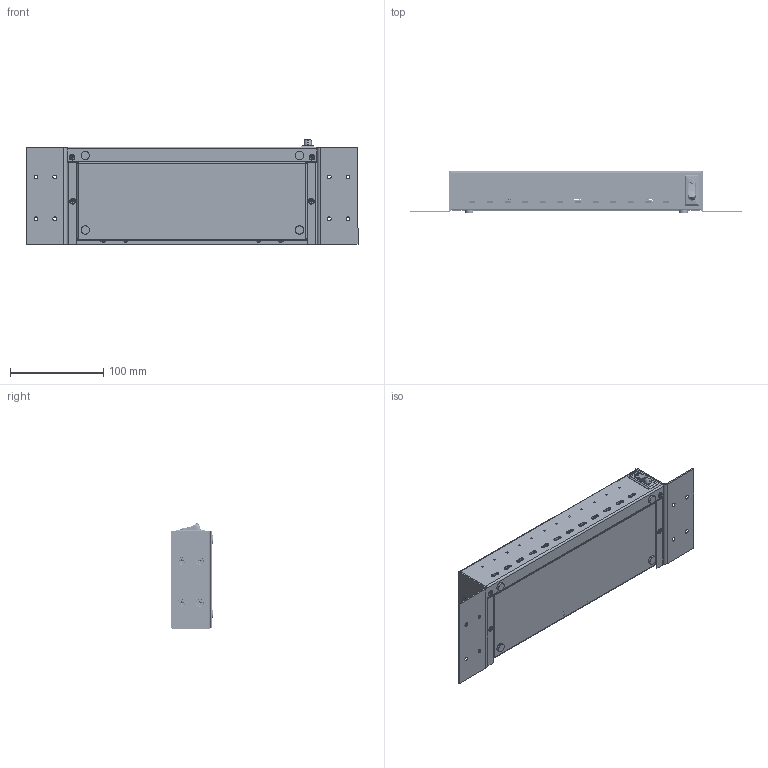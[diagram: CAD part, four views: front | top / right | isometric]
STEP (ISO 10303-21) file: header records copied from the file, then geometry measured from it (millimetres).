
FILE_DESCRIPTION(/* description */ (''),/* implementation_level */ '2;1');
FILE_NAME(/* name */ 'C:/Users/Leo/Desktop/AA CoolGear CADs/USB-12XU1CH/USB-12XU1CH v2.step',/* time_stamp */ '2021-08-02T16:05:13-04:00',/* author */ (''),/* organization */ (''),/* preprocessor_version */ 'ST-DEVELOPER v18.1',/* originating_system */ 'Autodesk Translation Framework v10.9.0.1377',/* authorisation */ '');
FILE_SCHEMA (('AUTOMOTIVE_DESIGN { 1 0 10303 214 3 1 1 }'));
Products named in the file (35): USB-12XU1CH; 6 hole conetor mounting v2; Component1; Botton USB charger v2; Component1 (1); Vent mosquito 30mm 3M v1; Vent mosquito 30mm 3M v1_1; Component1 (2); M3.0.5-4mmL v1; Component36; Component39; Component40; Component40(Mirror); 92010A218_PASSIVATED 18-8 STAINLESS STEEL PHILLIPS FLAT HEAD SCREW; USB type C mounting pcb v3; USB type C mounting pcb v3_1; USB type C mounting pcb v3_2; USB type C mounting pcb v3_3; USB type C mounting pcb v3_4; USB type C mounting pcb v3_5; USB type C mounting pcb v3_6; USB type C mounting pcb v3_7; USB type C mounting pcb v3_8; USB type C mounting pcb v3_9; USB type C mounting pcb v3_10; USB type C mounting pcb v3_11; Switch Rounded Rocket switch R13-242 v2; Component2; Component3; led_energy (1); led_energy; USB type C mounting pcb v3_12; USB type C mounting pcb v3_13; TypeC(12); Component51
Assembly tree (63 placements, depth 4):
  USB-12XU1CH
    6 hole conetor mounting v2
      Component1  x3
    Botton USB charger v2
      Component1 (1)
    Vent mosquito 30mm 3M v1
      Component1 (2)
    Vent mosquito 30mm 3M v1_1
      Component1 (2)
    M3.0.5-4mmL v1  x4
    Component36  x4
    Component39
    Component40
    92010A218_PASSIVATED 18-8 STAINLESS STEEL PHILLIPS FLAT HEAD SCREW  x8
    Component40(Mirror)
    USB type C mounting pcb v3
      TypeC(12)
    USB type C mounting pcb v3_1
      TypeC(12)
    USB type C mounting pcb v3_2
      TypeC(12)
    USB type C mounting pcb v3_3
      TypeC(12)
    USB type C mounting pcb v3_4
      TypeC(12)
    USB type C mounting pcb v3_5
      TypeC(12)
    USB type C mounting pcb v3_6
      TypeC(12)
    USB type C mounting pcb v3_7
      TypeC(12)
    USB type C mounting pcb v3_8
      TypeC(12)
    USB type C mounting pcb v3_9
      TypeC(12)
    USB type C mounting pcb v3_10
      TypeC(12)
    USB type C mounting pcb v3_11
      TypeC(12)
    Switch Rounded Rocket switch R13-242 v2
      Component2
      Component3
      led_energy (1)
        led_energy
    USB type C mounting pcb v3_12
      TypeC(12)
    USB type C mounting pcb v3_13
      TypeC(12)
    Component51
Bounding box: 356.5 x 44.58 x 113.44 mm (x, y, z)
Volume: 199339.2 mm3; surface area: 291494.5 mm2
Topology: 13 solids, 13 shells, 6728 faces, 19306 edges, 12545 vertices
Faces by surface type: plane 4502, cylinder 1681, bspline 262, cone 158, torus 64, sphere 61
Full cylindrical faces by diameter (mm): 0.5 x4, 1.8 x27, 2.323 x12, 2.529 x16, 2.85 x8, 3 x32, 3.489 x3, 4 x52, 5 x8, 5.35 x2, 7.159 x2, 9 x4, 15.329 x2, 28.3 x2
Entity records: 230062 total; most frequent: CARTESIAN_POINT 58847, ORIENTED_EDGE 37074, DIRECTION 33987, EDGE_CURVE 18537, LINE 14137, VECTOR 14137, VERTEX_POINT 12041, AXIS2_PLACEMENT_3D 9925
